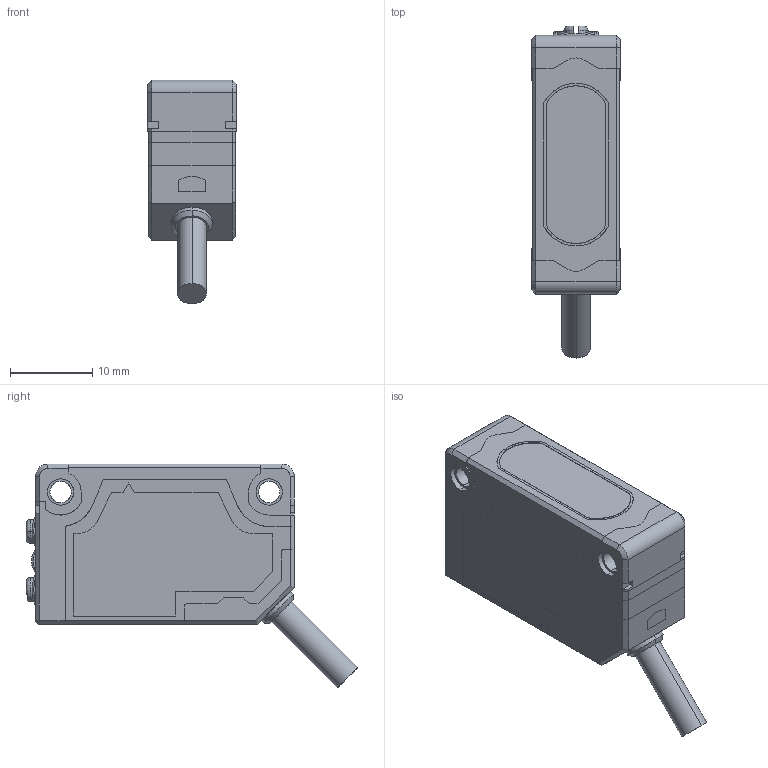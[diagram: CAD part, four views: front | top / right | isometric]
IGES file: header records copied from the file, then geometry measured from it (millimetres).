
Global section: file name: L:\DL_Automation\RES\SIMP_PRJ\SS S3Z\WorkingArea\Disegni 3D-(Parasolid-STEP)\DSD\S3Z PH-PR L_D\S3Z PH-PR L_D_CABLE.igs; native system: NX V10.0; preprocessor: SIEMENS PLM Software NX 10.0; date: 20170421.124429; units: millimetre
Bounding box: 10.8 x 40.41 x 27.26 mm (x, y, z)
Surface area: 2568.7 mm2 (no closed solid volume)
Topology: 0 solids, 0 shells, 227 faces, 1439 edges, 1439 vertices
Faces by surface type: bspline 227
